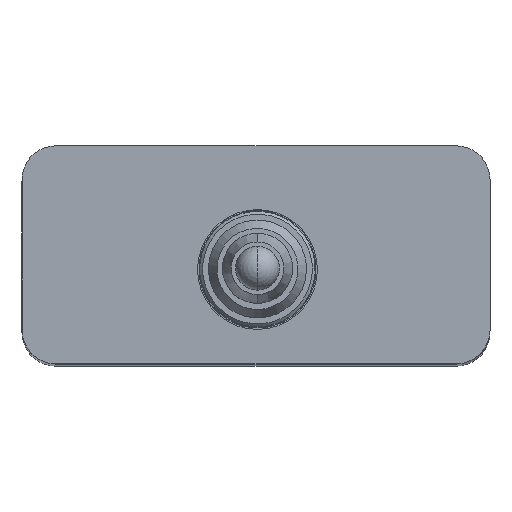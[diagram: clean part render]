
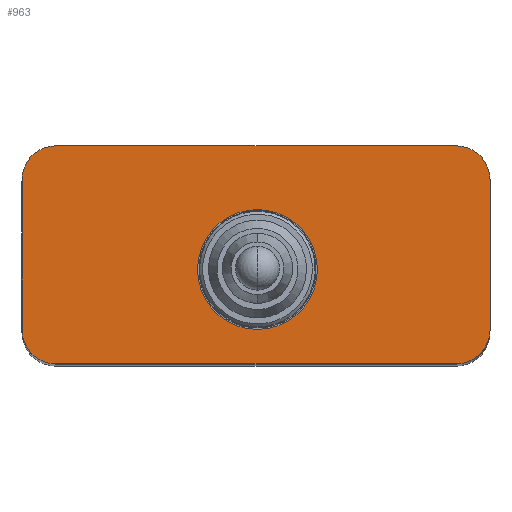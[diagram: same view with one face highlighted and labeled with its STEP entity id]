
A CAD part, top view. The second image highlights one B-rep face of the part: STEP entity #963.
In plain terms, the highlighted planar face has unit normal (0, 0, 1).
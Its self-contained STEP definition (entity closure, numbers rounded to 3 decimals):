
#963=ADVANCED_FACE('',(#1103,#1104),#1052,.T.);
#1052=PLANE('',#2622);
#1103=FACE_BOUND('',#1220,.T.);
#1104=FACE_BOUND('',#1221,.T.);
#1220=EDGE_LOOP('',(#1742));
#1221=EDGE_LOOP('',(#1743,#1744,#1745,#1746,#1747,#1748,#1749,#1750));
#1396=LINE('',#3545,#1510);
#1397=LINE('',#3546,#1511);
#1398=LINE('',#3547,#1512);
#1399=LINE('',#3548,#1513);
#1510=VECTOR('',#2992,1.);
#1511=VECTOR('',#2993,1.);
#1512=VECTOR('',#2994,1.);
#1513=VECTOR('',#2995,1.);
#1742=ORIENTED_EDGE('',*,*,#2310,.F.);
#1743=ORIENTED_EDGE('',*,*,#2311,.T.);
#1744=ORIENTED_EDGE('',*,*,#2283,.T.);
#1745=ORIENTED_EDGE('',*,*,#2312,.T.);
#1746=ORIENTED_EDGE('',*,*,#2271,.T.);
#1747=ORIENTED_EDGE('',*,*,#2313,.T.);
#1748=ORIENTED_EDGE('',*,*,#2275,.T.);
#1749=ORIENTED_EDGE('',*,*,#2314,.T.);
#1750=ORIENTED_EDGE('',*,*,#2279,.T.);
#2086=VERTEX_POINT('',#3462);
#2087=VERTEX_POINT('',#3463);
#2090=VERTEX_POINT('',#3471);
#2091=VERTEX_POINT('',#3472);
#2094=VERTEX_POINT('',#3480);
#2095=VERTEX_POINT('',#3481);
#2098=VERTEX_POINT('',#3489);
#2099=VERTEX_POINT('',#3490);
#2113=VERTEX_POINT('',#3544);
#2271=EDGE_CURVE('',#2086,#2087,#2464,.T.);
#2275=EDGE_CURVE('',#2090,#2091,#2466,.T.);
#2279=EDGE_CURVE('',#2094,#2095,#2468,.T.);
#2283=EDGE_CURVE('',#2098,#2099,#2470,.T.);
#2310=EDGE_CURVE('',#2113,#2113,#2479,.T.);
#2311=EDGE_CURVE('',#2095,#2098,#1396,.T.);
#2312=EDGE_CURVE('',#2099,#2086,#1397,.T.);
#2313=EDGE_CURVE('',#2087,#2090,#1398,.T.);
#2314=EDGE_CURVE('',#2091,#2094,#1399,.T.);
#2464=CIRCLE('',#2590,2.31);
#2466=CIRCLE('',#2593,2.31);
#2468=CIRCLE('',#2596,2.31);
#2470=CIRCLE('',#2599,2.31);
#2479=CIRCLE('',#2621,4.1);
#2590=AXIS2_PLACEMENT_3D('',#3461,#2904,#2905);
#2593=AXIS2_PLACEMENT_3D('',#3470,#2912,#2913);
#2596=AXIS2_PLACEMENT_3D('',#3479,#2920,#2921);
#2599=AXIS2_PLACEMENT_3D('',#3488,#2928,#2929);
#2621=AXIS2_PLACEMENT_3D('',#3543,#2990,#2991);
#2622=AXIS2_PLACEMENT_3D('',#3549,#2996,#2997);
#2904=DIRECTION('',(0.,0.,1.));
#2905=DIRECTION('',(1.,0.,0.));
#2912=DIRECTION('',(0.,0.,1.));
#2913=DIRECTION('',(1.,0.,0.));
#2920=DIRECTION('',(0.,0.,1.));
#2921=DIRECTION('',(1.,0.,0.));
#2928=DIRECTION('',(0.,0.,1.));
#2929=DIRECTION('',(1.,0.,0.));
#2990=DIRECTION('',(0.,0.,1.));
#2991=DIRECTION('',(1.,0.,0.));
#2992=DIRECTION('',(-1.,0.,0.));
#2993=DIRECTION('',(0.,-1.,0.));
#2994=DIRECTION('',(1.,0.,0.));
#2995=DIRECTION('',(0.,1.,0.));
#2996=DIRECTION('',(0.,0.,1.));
#2997=DIRECTION('',(1.,0.,0.));
#3461=CARTESIAN_POINT('',(-14.5,-6.05,2.45));
#3462=CARTESIAN_POINT('',(-16.81,-6.05,2.45));
#3463=CARTESIAN_POINT('',(-14.5,-8.36,2.45));
#3470=CARTESIAN_POINT('',(12.9,-6.05,2.45));
#3471=CARTESIAN_POINT('',(12.9,-8.36,2.45));
#3472=CARTESIAN_POINT('',(15.21,-6.05,2.45));
#3479=CARTESIAN_POINT('',(12.9,4.25,2.45));
#3480=CARTESIAN_POINT('',(15.21,4.25,2.45));
#3481=CARTESIAN_POINT('',(12.9,6.56,2.45));
#3488=CARTESIAN_POINT('',(-14.5,4.25,2.45));
#3489=CARTESIAN_POINT('',(-14.5,6.56,2.45));
#3490=CARTESIAN_POINT('',(-16.81,4.25,2.45));
#3543=CARTESIAN_POINT('',(-0.7,-1.9,2.45));
#3544=CARTESIAN_POINT('',(3.4,-1.9,2.45));
#3545=CARTESIAN_POINT('',(13.2,6.56,2.45));
#3546=CARTESIAN_POINT('',(-16.81,2.95,2.45));
#3547=CARTESIAN_POINT('',(-10.6,-8.36,2.45));
#3548=CARTESIAN_POINT('',(15.21,-6.35,2.45));
#3549=CARTESIAN_POINT('',(-11.8,2.95,2.45));
